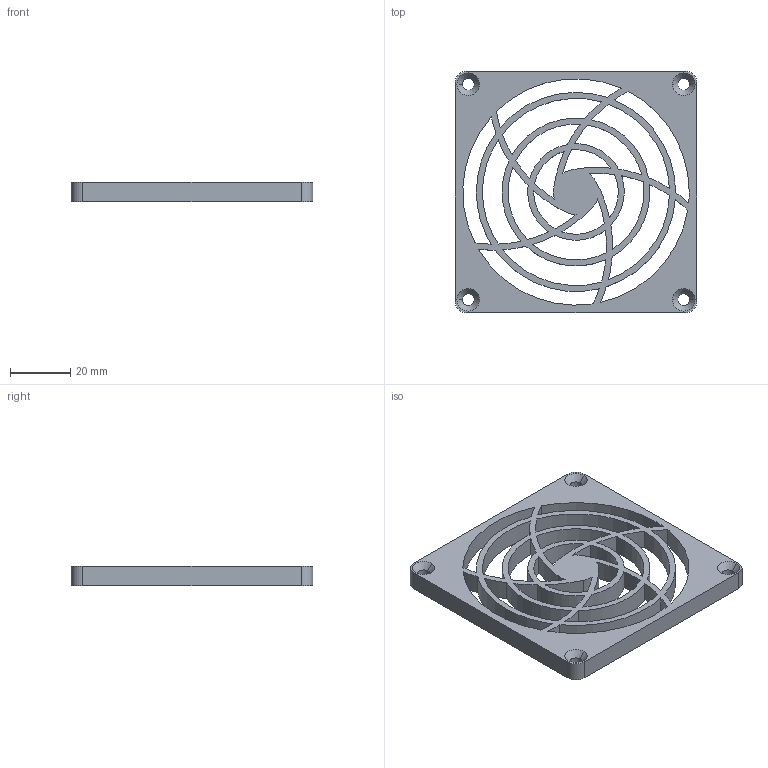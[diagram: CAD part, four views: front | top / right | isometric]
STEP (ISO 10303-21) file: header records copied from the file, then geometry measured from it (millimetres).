
FILE_DESCRIPTION (( 'STEP AP214' ), '1' );
FILE_NAME ('SC80-P10.step', '2018-09-05T05:49:55', ( '' ), ( '' ), 'SwSTEP 2.0', 'SolidWorks 2016', '' );
FILE_SCHEMA (( 'AUTOMOTIVE_DESIGN' ));
Length unit declared in the file: millimetre
Products named in the file (1): SC80-P10
Bounding box: 80 x 80 x 6.5 mm (x, y, z)
Volume: 21246.4 mm3; surface area: 19034.7 mm2
Topology: 5 solids, 5 shells, 134 faces, 368 edges, 240 vertices
Faces by surface type: cylinder 116, plane 10, cone 8
Entity records: 4558 total; most frequent: DIRECTION 870, CARTESIAN_POINT 743, ORIENTED_EDGE 736, EDGE_CURVE 368, AXIS2_PLACEMENT_3D 367, VERTEX_POINT 240, CIRCLE 232, EDGE_LOOP 186
